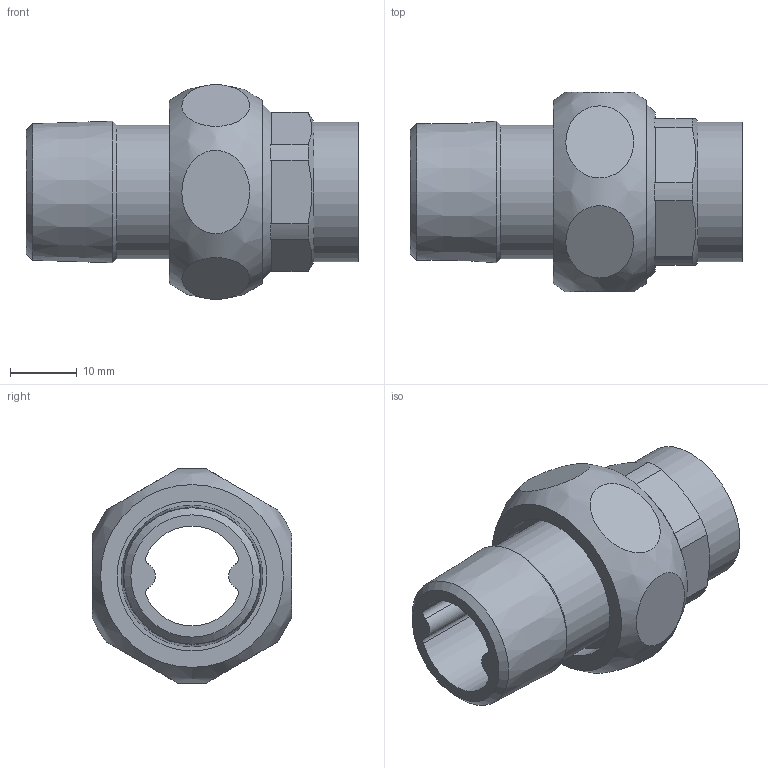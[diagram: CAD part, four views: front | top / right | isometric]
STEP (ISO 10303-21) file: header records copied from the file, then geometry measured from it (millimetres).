
FILE_DESCRIPTION(/* description */ (''),/* implementation_level */ '2;1');
FILE_NAME(/* name */ '\\LG50011\SANHA_Legnica\Engineering\Public\RYSUNKI\SANHA POLSKA\4331g\inventor\14331g_18-12(2).stp',/* time_stamp */ '2019-03-13T10:58:28+01:00',/* author */ ('gomulka'),/* organization */ (''),/* preprocessor_version */ 'ST-DEVELOPER v17',/* originating_system */ 'Autodesk Inventor 2019',/* authorisation */ '');
FILE_SCHEMA (('AUTOMOTIVE_DESIGN { 1 0 10303 214 3 1 1 }'));
Length unit declared in the file: millimetre
Products named in the file (5): 14331g_18-12(2); 14371_12-34(1); 14374_34(2); 1DCU34; 14370_18-34(2)
Assembly tree (4 placements, depth 2):
  14331g_18-12(2)
    14371_12-34(1)
    14374_34(2)
    1DCU34
    14370_18-34(2)
Bounding box: 49.87 x 30 x 32.23 mm (x, y, z)
Volume: 12917.8 mm3; surface area: 10270.2 mm2
Topology: 4 solids, 4 shells, 61 faces, 158 edges, 113 vertices
Faces by surface type: plane 29, cylinder 24, cone 7, bspline 1
Full cylindrical faces by diameter (mm): 17 x2, 18 x1, 20 x1, 21 x1, 22.5 x1, 23 x1, 23.5 x1, 24.117 x1, 26.441 x1
Entity records: 2484 total; most frequent: CARTESIAN_POINT 750, DIRECTION 357, ORIENTED_EDGE 316, EDGE_CURVE 158, AXIS2_PLACEMENT_3D 157, VERTEX_POINT 113, CIRCLE 88, EDGE_LOOP 77
